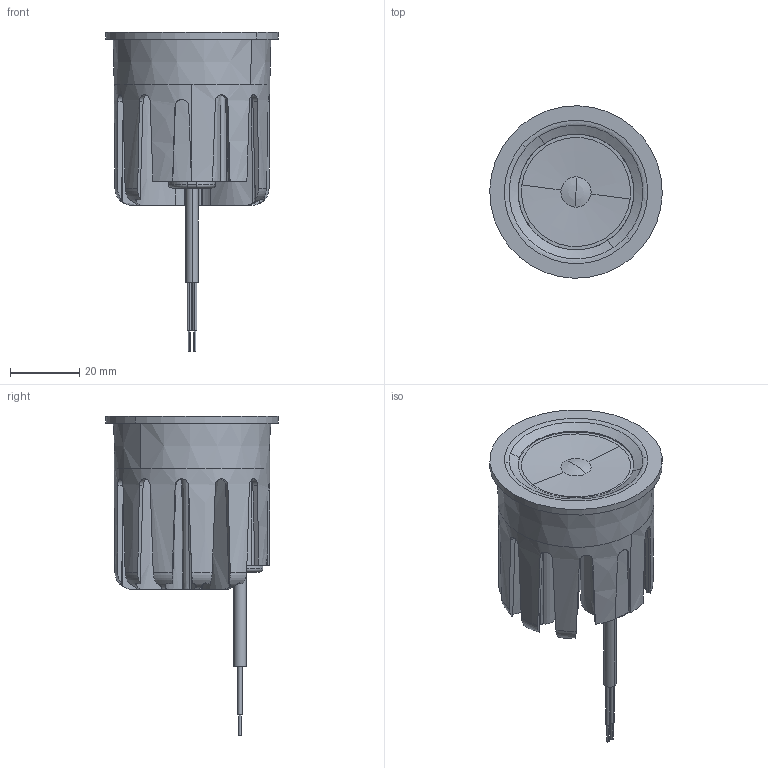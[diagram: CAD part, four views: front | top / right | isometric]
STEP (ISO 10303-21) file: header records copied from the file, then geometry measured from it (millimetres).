
FILE_DESCRIPTION(('Creo Elements/Direct Modeling STEP Export'),'2;1');
FILE_NAME('Helen_50_sito.stp','2026-05-14T15:13:38',(''),(''),'Creo Elements/Direct Modeling STEP processor for AP214 (Solid Model)','Creo Elements/Direct Modeling 20.0E 23-Apr-2019 (C) Parametric Technology GmbH','');
FILE_SCHEMA(('AUTOMOTIVE_DESIGN { 1 0 10303 214 1 1 1 1 }'));
Length unit declared in the file: millimetre
Products named in the file (2): DISSIPATORE_H50_SPESSORE-743100.PRT
Assembly tree (1 placements, depth 2):
  DISSIPATORE_H50_SPESSORE-743100.PRT
    DISSIPATORE_H50_SPESSORE-743100.PRT
Bounding box: 49.79 x 49.79 x 92.22 mm (x, y, z)
Volume: 44641.5 mm3; surface area: 24436.6 mm2
Topology: 1 solids, 5 shells, 279 faces, 779 edges, 519 vertices
Faces by surface type: cone 100, plane 72, cylinder 62, bspline 26, torus 17, sphere 2
Entity records: 12466 total; most frequent: CARTESIAN_POINT 3335, ORIENTED_EDGE 1554, DIRECTION 1313, EDGE_CURVE 777, AXIS2_PLACEMENT_3D 537, VERTEX_POINT 519, EDGE_LOOP 290, PRESENTATION_STYLE_ASSIGNMENT 283
